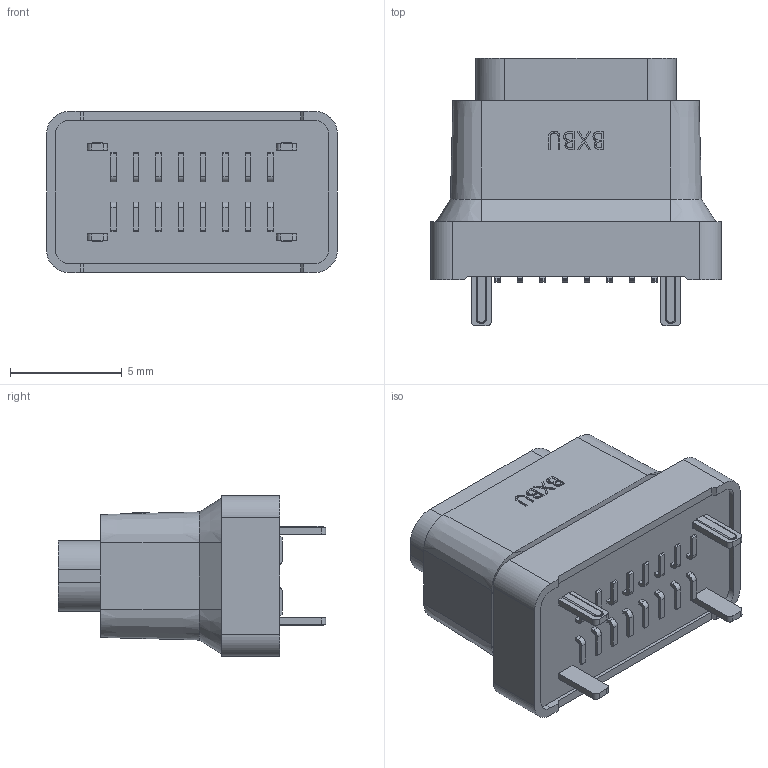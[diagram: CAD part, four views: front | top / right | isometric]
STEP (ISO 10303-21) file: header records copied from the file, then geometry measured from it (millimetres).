
FILE_DESCRIPTION (( 'STEP AP203' ), '1' );
FILE_NAME ('U5402-16PN10.0LF.STEP', '2026-09-16T03:42:26', ( '' ), ( '' ), 'SwSTEP 2.0', 'SolidWorks 2024', '' );
FILE_SCHEMA (( 'CONFIG_CONTROL_DESIGN' ));
Length unit declared in the file: millimetre
Products named in the file (1): U5402-16PN10.0LF
Bounding box: 13 x 11.95 x 7.2 mm (x, y, z)
Volume: 517.4 mm3; surface area: 882.1 mm2
Topology: 1 solids, 1 shells, 563 faces, 1564 edges, 1036 vertices
Faces by surface type: plane 406, cylinder 102, bspline 31, cone 16, torus 8
Entity records: 20192 total; most frequent: CARTESIAN_POINT 6652, ORIENTED_EDGE 3128, DIRECTION 2267, EDGE_CURVE 1564, VERTEX_POINT 1036, VECTOR 897, LINE 897, AXIS2_PLACEMENT_3D 685
